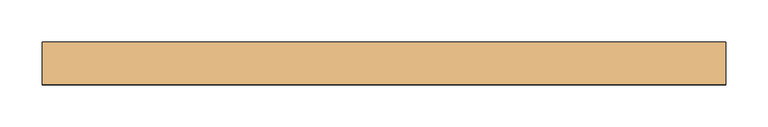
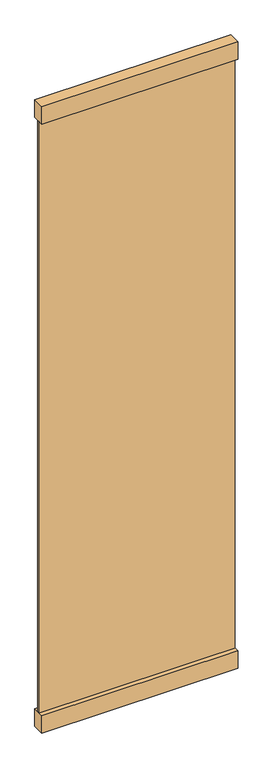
"""IFC4 building model written with IfcOpenShell, lengths in millimetres: door geometry, Planitar - Swap_Full Glass_Panel_D2 : Planitar - Swap_Full Glass_Panel_D2."""

from ifc_helpers import new_model, si_unit, frame, origin, origin_with_axes, place, context, project, spatial, polyline, outline, extrude, source, transform, mapped, element, save


def door_4c06adda(model_context):
    return source(origin(), model_context, "Body", "SweptSolid", [
        extrude(outline(polyline([(406.4, -25.4), (-406.4, -25.4), (-406.4, 25.4), (406.4, 25.4), (406.4, -25.4)])), origin_with_axes(), (0.0, 0.0, 1.0), 76.2),
        extrude(outline(polyline([(406.4, -25.4), (-406.4, -25.4), (-406.4, 25.4), (406.4, 25.4), (406.4, -25.4)])), frame((0.0, 0.0, 2667.0), z_axis=(0.0, 0.0, 1.0), x_axis=(1.0, 0.0, 0.0)), (0.0, 0.0, 1.0), 76.2),
        extrude(outline(polyline([(406.4, -6.35), (-406.4, -6.35), (-406.4, 6.35), (406.4, 6.35), (406.4, -6.35)])), frame((0.0, 0.0, 76.2), z_axis=(0.0, 0.0, 1.0), x_axis=(1.0, 0.0, 0.0)), (0.0, 0.0, 1.0), 2590.8),
    ])


if __name__ == "__main__":
    model = new_model("IFC4")
    model_context = context("Model", 3, world=origin())
    ifc_project = project(units=[si_unit("LENGTHUNIT", "METRE", prefix="MILLI")], contexts=[model_context])
    site = spatial("IfcSite", under=ifc_project)
    building = spatial("IfcBuilding", under=site)
    placement = place(None, origin())
    door_shape = door_4c06adda(model_context)
    element("IfcDoor", 1, ObjectType="Planitar - Swap_Full Glass_Panel_D2 : Planitar - Swap_Full Glass_Panel_D2", at=placement, inside=building, context=model_context, shape_type="MappedRepresentation", body=[
        mapped(door_shape, transform((0.0, 0.0, 0.0), x_axis=(1.0, 0.0, 0.0), y_axis=(0.0, 1.0, 0.0), z_axis=(0.0, 0.0, 1.0))),
    ])
    save(model, "model.ifc")
